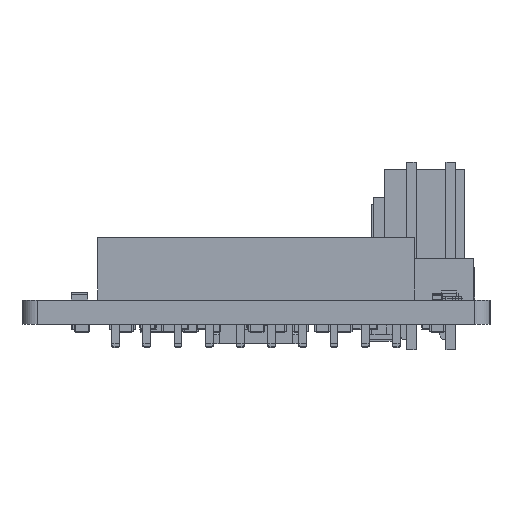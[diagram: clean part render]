
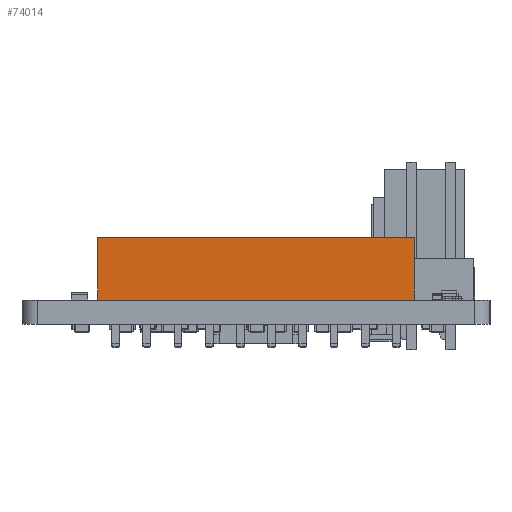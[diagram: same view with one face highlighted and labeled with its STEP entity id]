
A CAD part, left-side view. The second image highlights one B-rep face of the part: STEP entity #74014.
In plain terms, the highlighted planar face has unit normal (-1, 0, 0).
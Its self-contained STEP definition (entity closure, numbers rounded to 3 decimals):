
#72583 = EDGE_CURVE('',#72584,#72586,#72588,.T.);
#72584 = VERTEX_POINT('',#72585);
#72585 = CARTESIAN_POINT('',(-3.174,10.149,0.));
#72586 = VERTEX_POINT('',#72587);
#72587 = CARTESIAN_POINT('',(-3.174,10.149,4.));
#72588 = LINE('',#72589,#72590);
#72589 = CARTESIAN_POINT('',(-3.174,10.149,0.));
#72590 = VECTOR('',#72591,1.);
#72591 = DIRECTION('',(0.,0.,1.));
#73989 = VERTEX_POINT('',#73990);
#73990 = CARTESIAN_POINT('',(-3.174,-10.149,4.));
#73996 = EDGE_CURVE('',#73997,#73989,#73999,.T.);
#73997 = VERTEX_POINT('',#73998);
#73998 = CARTESIAN_POINT('',(-3.174,-10.149,0.));
#73999 = LINE('',#74000,#74001);
#74000 = CARTESIAN_POINT('',(-3.174,-10.149,0.));
#74001 = VECTOR('',#74002,1.);
#74002 = DIRECTION('',(0.,0.,1.));
#74014 = ADVANCED_FACE('',(#74015),#74031,.T.);
#74015 = FACE_BOUND('',#74016,.T.);
#74016 = EDGE_LOOP('',(#74017,#74018,#74024,#74025));
#74017 = ORIENTED_EDGE('',*,*,#73996,.T.);
#74018 = ORIENTED_EDGE('',*,*,#74019,.T.);
#74019 = EDGE_CURVE('',#73989,#72586,#74020,.T.);
#74020 = LINE('',#74021,#74022);
#74021 = CARTESIAN_POINT('',(-3.174,-10.149,4.));
#74022 = VECTOR('',#74023,1.);
#74023 = DIRECTION('',(0.,1.,0.));
#74024 = ORIENTED_EDGE('',*,*,#72583,.F.);
#74025 = ORIENTED_EDGE('',*,*,#74026,.F.);
#74026 = EDGE_CURVE('',#73997,#72584,#74027,.T.);
#74027 = LINE('',#74028,#74029);
#74028 = CARTESIAN_POINT('',(-3.174,-10.149,0.));
#74029 = VECTOR('',#74030,1.);
#74030 = DIRECTION('',(0.,1.,0.));
#74031 = PLANE('',#74032);
#74032 = AXIS2_PLACEMENT_3D('',#74033,#74034,#74035);
#74033 = CARTESIAN_POINT('',(-3.174,-10.149,0.));
#74034 = DIRECTION('',(-1.,0.,0.));
#74035 = DIRECTION('',(0.,1.,0.));
